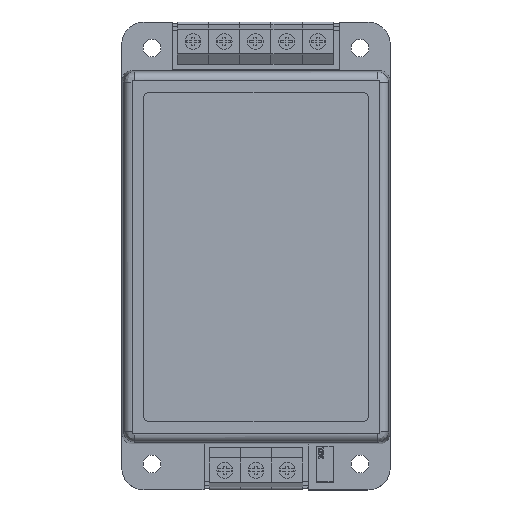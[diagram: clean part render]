
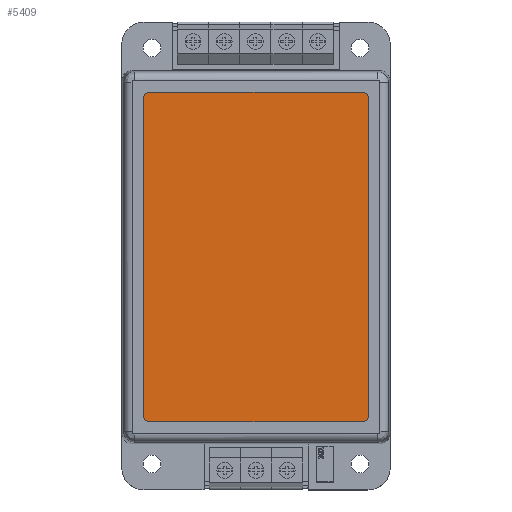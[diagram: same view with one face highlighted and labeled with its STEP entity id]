
A CAD part, top view. The second image highlights one B-rep face of the part: STEP entity #5409.
In plain terms, the highlighted planar face has unit normal (0, 0, 1).
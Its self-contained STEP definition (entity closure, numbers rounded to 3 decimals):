
#52 = CARTESIAN_POINT ( 'NONE',  ( -27.445, 47.284, 41.129 ) ) ;
#201 = DIRECTION ( 'NONE',  ( 0., 0., 1. ) ) ;
#2016 = DIRECTION ( 'NONE',  ( 0., 1., 0. ) ) ;
#2084 = EDGE_CURVE ( 'NONE', #20459, #19532, #17824, .T. ) ;
#2452 = LINE ( 'NONE', #52, #17315 ) ;
#2608 = CARTESIAN_POINT ( 'NONE',  ( 25.255, 47.284, 41.129 ) ) ;
#2804 = EDGE_CURVE ( 'NONE', #24062, #4216, #17483, .T. ) ;
#2805 = VERTEX_POINT ( 'NONE', #24903 ) ;
#3098 = VERTEX_POINT ( 'NONE', #2608 ) ;
#3366 = EDGE_LOOP ( 'NONE', ( #4978, #24045, #4596, #11480, #11771, #24708, #11823, #18918 ) ) ;
#4216 = VERTEX_POINT ( 'NONE', #16525 ) ;
#4596 = ORIENTED_EDGE ( 'NONE', *, *, #2804, .T. ) ;
#4844 = CARTESIAN_POINT ( 'NONE',  ( -27.445, -31.916, 41.129 ) ) ;
#4978 = ORIENTED_EDGE ( 'NONE', *, *, #21296, .T. ) ;
#5227 = AXIS2_PLACEMENT_3D ( 'NONE', #11815, #201, #13751 ) ;
#5393 = CIRCLE ( 'NONE', #23048, 1.5 ) ;
#5409 = ADVANCED_FACE ( 'NONE', ( #19024 ), #9866, .T. ) ;
#5626 = CARTESIAN_POINT ( 'NONE',  ( -25.945, 45.784, 41.129 ) ) ;
#7581 = DIRECTION ( 'NONE',  ( 0., -1., 0. ) ) ;
#7586 = CARTESIAN_POINT ( 'NONE',  ( 25.255, -30.416, 41.129 ) ) ;
#7728 = AXIS2_PLACEMENT_3D ( 'NONE', #23168, #11611, #25112 ) ;
#7818 = CARTESIAN_POINT ( 'NONE',  ( 26.755, 47.284, 41.129 ) ) ;
#7929 = VECTOR ( 'NONE', #2016, 1000. ) ;
#8160 = EDGE_CURVE ( 'NONE', #21881, #24062, #23166, .T. ) ;
#8484 = VECTOR ( 'NONE', #20336, 1000. ) ;
#8702 = EDGE_CURVE ( 'NONE', #21972, #3098, #16186, .T. ) ;
#9389 = CARTESIAN_POINT ( 'NONE',  ( 25.255, -31.916, 41.129 ) ) ;
#9535 = DIRECTION ( 'NONE',  ( 0., -1., 0. ) ) ;
#9567 = DIRECTION ( 'NONE',  ( 0., 0., 1. ) ) ;
#9624 = CARTESIAN_POINT ( 'NONE',  ( 26.755, 45.784, 41.129 ) ) ;
#9866 = PLANE ( 'NONE',  #5227 ) ;
#11480 = ORIENTED_EDGE ( 'NONE', *, *, #19875, .T. ) ;
#11611 = DIRECTION ( 'NONE',  ( 0., 0., 1. ) ) ;
#11771 = ORIENTED_EDGE ( 'NONE', *, *, #8702, .T. ) ;
#11815 = CARTESIAN_POINT ( 'NONE',  ( -0.345, 7.684, 41.129 ) ) ;
#11823 = ORIENTED_EDGE ( 'NONE', *, *, #2084, .T. ) ;
#12293 = VECTOR ( 'NONE', #14131, 1000. ) ;
#13005 = AXIS2_PLACEMENT_3D ( 'NONE', #7586, #21102, #9535 ) ;
#13062 = LINE ( 'NONE', #7818, #7929 ) ;
#13751 = DIRECTION ( 'NONE',  ( 0., 1., 0. ) ) ;
#13985 = EDGE_CURVE ( 'NONE', #19532, #2805, #14249, .T. ) ;
#14131 = DIRECTION ( 'NONE',  ( 1., 0., 0. ) ) ;
#14249 = LINE ( 'NONE', #4844, #8484 ) ;
#16186 = CIRCLE ( 'NONE', #7728, 1.5 ) ;
#16525 = CARTESIAN_POINT ( 'NONE',  ( 26.755, -30.416, 41.129 ) ) ;
#17315 = VECTOR ( 'NONE', #25084, 1000. ) ;
#17483 = CIRCLE ( 'NONE', #13005, 1.5 ) ;
#17824 = CIRCLE ( 'NONE', #24791, 1.5 ) ;
#18918 = ORIENTED_EDGE ( 'NONE', *, *, #13985, .T. ) ;
#19024 = FACE_OUTER_BOUND ( 'NONE', #3366, .T. ) ;
#19056 = CARTESIAN_POINT ( 'NONE',  ( -25.945, -31.916, 41.129 ) ) ;
#19140 = DIRECTION ( 'NONE',  ( 0., 0., 1. ) ) ;
#19260 = EDGE_CURVE ( 'NONE', #3098, #20459, #2452, .T. ) ;
#19532 = VERTEX_POINT ( 'NONE', #24117 ) ;
#19875 = EDGE_CURVE ( 'NONE', #4216, #21972, #13062, .T. ) ;
#20336 = DIRECTION ( 'NONE',  ( 0., -1., 0. ) ) ;
#20459 = VERTEX_POINT ( 'NONE', #23075 ) ;
#21102 = DIRECTION ( 'NONE',  ( 0., 0., 1. ) ) ;
#21139 = CARTESIAN_POINT ( 'NONE',  ( -25.945, -30.416, 41.129 ) ) ;
#21296 = EDGE_CURVE ( 'NONE', #2805, #21881, #5393, .T. ) ;
#21881 = VERTEX_POINT ( 'NONE', #19056 ) ;
#21972 = VERTEX_POINT ( 'NONE', #9624 ) ;
#23048 = AXIS2_PLACEMENT_3D ( 'NONE', #21139, #9567, #23076 ) ;
#23075 = CARTESIAN_POINT ( 'NONE',  ( -25.945, 47.284, 41.129 ) ) ;
#23076 = DIRECTION ( 'NONE',  ( 0., -1., 0. ) ) ;
#23166 = LINE ( 'NONE', #23736, #12293 ) ;
#23168 = CARTESIAN_POINT ( 'NONE',  ( 25.255, 45.784, 41.129 ) ) ;
#23736 = CARTESIAN_POINT ( 'NONE',  ( 26.755, -31.916, 41.129 ) ) ;
#24045 = ORIENTED_EDGE ( 'NONE', *, *, #8160, .T. ) ;
#24062 = VERTEX_POINT ( 'NONE', #9389 ) ;
#24117 = CARTESIAN_POINT ( 'NONE',  ( -27.445, 45.784, 41.129 ) ) ;
#24708 = ORIENTED_EDGE ( 'NONE', *, *, #19260, .T. ) ;
#24791 = AXIS2_PLACEMENT_3D ( 'NONE', #5626, #19140, #7581 ) ;
#24903 = CARTESIAN_POINT ( 'NONE',  ( -27.445, -30.416, 41.129 ) ) ;
#25084 = DIRECTION ( 'NONE',  ( -1., 0., 0. ) ) ;
#25112 = DIRECTION ( 'NONE',  ( 0., -1., 0. ) ) ;
